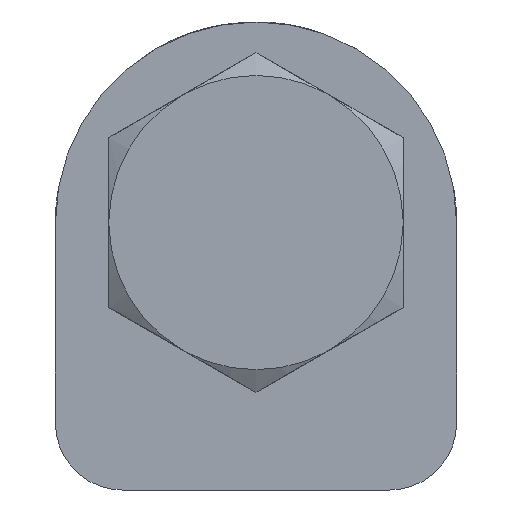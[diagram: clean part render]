
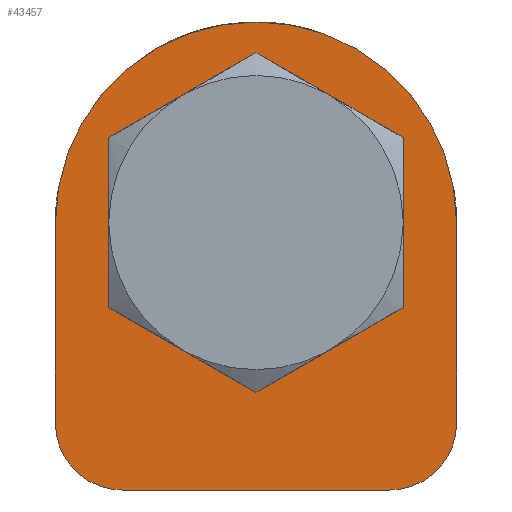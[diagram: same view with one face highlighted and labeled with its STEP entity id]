
A CAD part, left-side view. The second image highlights one B-rep face of the part: STEP entity #43457.
In plain terms, the highlighted planar face has unit normal (-1, 0, 0).
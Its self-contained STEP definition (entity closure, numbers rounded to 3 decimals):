
#12435=CARTESIAN_POINT('',(-32.5,-10.,-15.));
#12436=DIRECTION('',(-1.,0.,0.));
#12437=DIRECTION('',(0.,0.,-1.));
#12438=AXIS2_PLACEMENT_3D('',#12435,#12436,#12437);
#12443=DIRECTION('',(0.,-1.,0.));
#12444=VECTOR('',#12443,20.);
#12445=CARTESIAN_POINT('',(-32.5,10.,-20.));
#12446=LINE('',#12445,#12444);
#12450=CARTESIAN_POINT('',(-32.5,10.,-15.));
#12451=DIRECTION('',(-1.,0.,0.));
#12452=DIRECTION('',(0.,1.,0.));
#12453=AXIS2_PLACEMENT_3D('',#12450,#12451,#12452);
#12458=DIRECTION('',(0.,0.,-1.));
#12459=VECTOR('',#12458,15.);
#12460=CARTESIAN_POINT('',(-32.5,15.,0.));
#12461=LINE('',#12460,#12459);
#12465=CARTESIAN_POINT('',(-32.5,0.,0.));
#12466=DIRECTION('',(-1.,0.,0.));
#12467=DIRECTION('',(0.,0.,1.));
#12468=AXIS2_PLACEMENT_3D('',#12465,#12466,#12467);
#12473=CARTESIAN_POINT('',(-32.5,0.,0.));
#12474=DIRECTION('',(-1.,0.,0.));
#12475=DIRECTION('',(0.,-1.,0.));
#12476=AXIS2_PLACEMENT_3D('',#12473,#12474,#12475);
#12481=DIRECTION('',(0.,0.,1.));
#12482=VECTOR('',#12481,15.);
#12483=CARTESIAN_POINT('',(-32.5,-15.,-15.));
#12484=LINE('',#12483,#12482);
#12488=DIRECTION('',(0.,0.866,-0.5));
#12489=VECTOR('',#12488,12.702);
#12490=CARTESIAN_POINT('',(-32.5,-11.,-6.351));
#12491=LINE('',#12490,#12489);
#12495=DIRECTION('',(0.,-0.866,-0.5));
#12496=VECTOR('',#12495,12.702);
#12497=CARTESIAN_POINT('',(-32.5,0.,12.702));
#12498=LINE('',#12497,#12496);
#12502=DIRECTION('',(0.,-0.866,0.5));
#12503=VECTOR('',#12502,12.702);
#12504=CARTESIAN_POINT('',(-32.5,11.,6.351));
#12505=LINE('',#12504,#12503);
#12509=DIRECTION('',(0.,0.866,0.5));
#12510=VECTOR('',#12509,12.702);
#12511=CARTESIAN_POINT('',(-32.5,0.,-12.702));
#12512=LINE('',#12511,#12510);
#21572=DIRECTION('',(0.,0.,-1.));
#21573=VECTOR('',#21572,12.702);
#21574=CARTESIAN_POINT('',(-32.5,11.,6.351));
#21575=LINE('',#21574,#21573);
#21788=DIRECTION('',(0.,0.,1.));
#21789=VECTOR('',#21788,12.702);
#21790=CARTESIAN_POINT('',(-32.5,-11.,-6.351));
#21791=LINE('',#21790,#21789);
#34850=CARTESIAN_POINT('',(-32.5,0.,-12.702));
#34851=VERTEX_POINT('',#34850);
#34852=CARTESIAN_POINT('',(-32.5,-11.,-6.351));
#34853=VERTEX_POINT('',#34852);
#34854=CARTESIAN_POINT('',(-32.5,11.,-6.351));
#34855=VERTEX_POINT('',#34854);
#34856=CARTESIAN_POINT('',(-32.5,11.,6.351));
#34857=VERTEX_POINT('',#34856);
#34858=CARTESIAN_POINT('',(-32.5,0.,12.702));
#34859=VERTEX_POINT('',#34858);
#34860=CARTESIAN_POINT('',(-32.5,-11.,6.351));
#34861=VERTEX_POINT('',#34860);
#35154=CARTESIAN_POINT('',(-32.5,15.,-15.));
#35155=VERTEX_POINT('',#35154);
#35156=CARTESIAN_POINT('',(-32.5,15.,0.));
#35157=VERTEX_POINT('',#35156);
#35158=CARTESIAN_POINT('',(-32.5,-15.,-15.));
#35159=VERTEX_POINT('',#35158);
#35160=CARTESIAN_POINT('',(-32.5,-15.,0.));
#35161=VERTEX_POINT('',#35160);
#35162=CARTESIAN_POINT('',(-32.5,10.,-20.));
#35163=VERTEX_POINT('',#35162);
#35164=CARTESIAN_POINT('',(-32.5,-10.,-20.));
#35165=VERTEX_POINT('',#35164);
#35925=CARTESIAN_POINT('',(-32.5,0.,15.));
#35927=VERTEX_POINT('',#35925);
#43426=CARTESIAN_POINT('',(-32.5,0.,-12.5));
#43427=DIRECTION('',(-1.,0.,0.));
#43428=DIRECTION('',(0.,1.,0.));
#43429=AXIS2_PLACEMENT_3D('',#43426,#43427,#43428);
#43430=PLANE('',#43429);
#43432=ORIENTED_EDGE('',*,*,#43431,.F.);
#43434=ORIENTED_EDGE('',*,*,#43433,.F.);
#43435=ORIENTED_EDGE('',*,*,#43412,.F.);
#43436=ORIENTED_EDGE('',*,*,#43361,.F.);
#43437=ORIENTED_EDGE('',*,*,#37956,.F.);
#43438=ORIENTED_EDGE('',*,*,#42707,.F.);
#43440=ORIENTED_EDGE('',*,*,#43439,.F.);
#43441=EDGE_LOOP('',(#43432,#43434,#43435,#43436,#43437,#43438,#43440));
#43442=FACE_OUTER_BOUND('',#43441,.F.);
#43444=ORIENTED_EDGE('',*,*,#43443,.F.);
#43446=ORIENTED_EDGE('',*,*,#43445,.T.);
#43448=ORIENTED_EDGE('',*,*,#43447,.F.);
#43450=ORIENTED_EDGE('',*,*,#43449,.F.);
#43452=ORIENTED_EDGE('',*,*,#43451,.T.);
#43454=ORIENTED_EDGE('',*,*,#43453,.F.);
#43455=EDGE_LOOP('',(#43444,#43446,#43448,#43450,#43452,#43454));
#43456=FACE_BOUND('',#43455,.F.);
#12439=CIRCLE('',#12438,5.);
#12454=CIRCLE('',#12453,5.);
#12469=CIRCLE('',#12468,15.);
#12477=CIRCLE('',#12476,15.);
#37956=EDGE_CURVE('',#35927,#35157,#12469,.T.);
#42707=EDGE_CURVE('',#35161,#35927,#12477,.T.);
#43361=EDGE_CURVE('',#35157,#35155,#12461,.T.);
#43412=EDGE_CURVE('',#35155,#35163,#12454,.T.);
#43431=EDGE_CURVE('',#35165,#35159,#12439,.T.);
#43433=EDGE_CURVE('',#35163,#35165,#12446,.T.);
#43439=EDGE_CURVE('',#35159,#35161,#12484,.T.);
#43443=EDGE_CURVE('',#34853,#34851,#12491,.T.);
#43445=EDGE_CURVE('',#34853,#34861,#21791,.T.);
#43447=EDGE_CURVE('',#34859,#34861,#12498,.T.);
#43449=EDGE_CURVE('',#34857,#34859,#12505,.T.);
#43451=EDGE_CURVE('',#34857,#34855,#21575,.T.);
#43453=EDGE_CURVE('',#34851,#34855,#12512,.T.);
#43457=ADVANCED_FACE('',(#43442,#43456),#43430,.T.);
